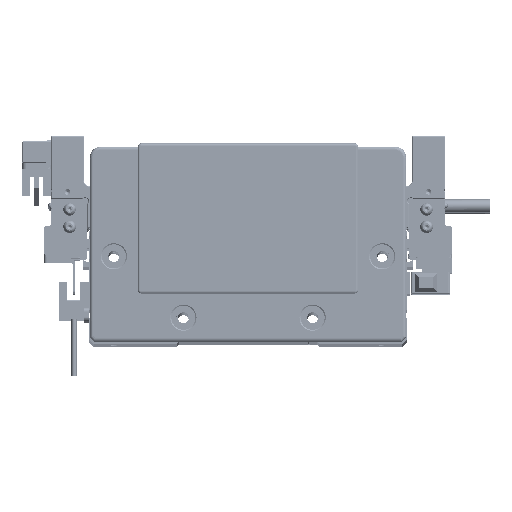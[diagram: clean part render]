
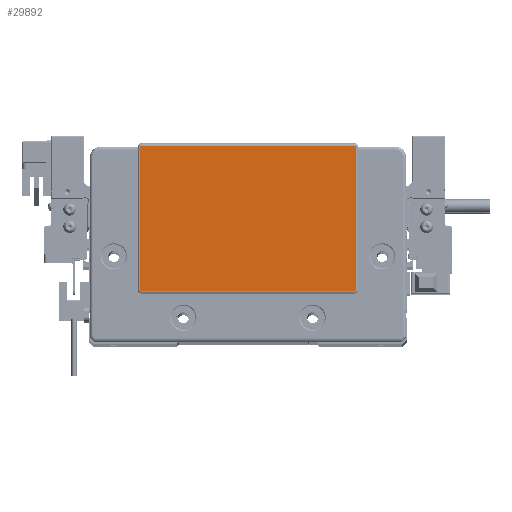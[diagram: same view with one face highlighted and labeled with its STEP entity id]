
A CAD part, top view. The second image highlights one B-rep face of the part: STEP entity #29892.
In plain terms, the highlighted planar face has unit normal (0, 0, 1) as drawn and (0, 0, -1) by its records, which use the part's own axes.
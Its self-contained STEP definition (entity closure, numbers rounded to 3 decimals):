
#2665 = CIRCLE ( 'NONE', #63061, 0.5 ) ;
#4687 = DIRECTION ( 'NONE',  ( 0., 0., -1. ) ) ;
#5616 = CARTESIAN_POINT ( 'NONE',  ( -48.75, -22.3, -2. ) ) ;
#6530 = DIRECTION ( 'NONE',  ( 0., 0., -1. ) ) ;
#9070 = EDGE_CURVE ( 'NONE', #18304, #29495, #2665, .T. ) ;
#14842 = DIRECTION ( 'NONE',  ( 0., 1., 0. ) ) ;
#15985 = LINE ( 'NONE', #38853, #72552 ) ;
#18304 = VERTEX_POINT ( 'NONE', #96316 ) ;
#20150 = DIRECTION ( 'NONE',  ( -1., 0., 0. ) ) ;
#21357 = DIRECTION ( 'NONE',  ( 1., 0., 0. ) ) ;
#25011 = AXIS2_PLACEMENT_3D ( 'NONE', #28091, #4687, #20150 ) ;
#27830 = CARTESIAN_POINT ( 'NONE',  ( 48.75, 44.3, -2. ) ) ;
#28091 = CARTESIAN_POINT ( 'NONE',  ( 48.75, 43.8, -2. ) ) ;
#28358 = ORIENTED_EDGE ( 'NONE', *, *, #87166, .T. ) ;
#28453 = DIRECTION ( 'NONE',  ( 0., 0., -1. ) ) ;
#29495 = VERTEX_POINT ( 'NONE', #74842 ) ;
#29496 = LINE ( 'NONE', #5616, #88831 ) ;
#29854 = EDGE_CURVE ( 'NONE', #84819, #52152, #41557, .T. ) ;
#29892 = ADVANCED_FACE ( 'NONE', ( #81229 ), #50379, .T. ) ;
#36497 = ORIENTED_EDGE ( 'NONE', *, *, #59762, .T. ) ;
#38262 = EDGE_CURVE ( 'NONE', #29495, #84819, #90020, .T. ) ;
#38853 = CARTESIAN_POINT ( 'NONE',  ( 49.25, -21.8, -2. ) ) ;
#41557 = CIRCLE ( 'NONE', #97241, 0.5 ) ;
#41965 = EDGE_LOOP ( 'NONE', ( #74357, #61669, #36497, #51199, #63845, #96980, #94978, #28358 ) ) ;
#43874 = DIRECTION ( 'NONE',  ( -1., 0., 0. ) ) ;
#45917 = EDGE_CURVE ( 'NONE', #60475, #92000, #52441, .T. ) ;
#46673 = CARTESIAN_POINT ( 'NONE',  ( -48.75, -21.8, -2. ) ) ;
#47800 = DIRECTION ( 'NONE',  ( 0., -1., 0. ) ) ;
#48790 = DIRECTION ( 'NONE',  ( -1., 0., 0. ) ) ;
#50379 = PLANE ( 'NONE',  #63868 ) ;
#50447 = DIRECTION ( 'NONE',  ( -1., 0., 0. ) ) ;
#51199 = ORIENTED_EDGE ( 'NONE', *, *, #9070, .T. ) ;
#52152 = VERTEX_POINT ( 'NONE', #96699 ) ;
#52441 = CIRCLE ( 'NONE', #57185, 0.5 ) ;
#52693 = CARTESIAN_POINT ( 'NONE',  ( -49.25, 43.8, -2. ) ) ;
#55256 = CARTESIAN_POINT ( 'NONE',  ( -49.25, 43.8, -2. ) ) ;
#57185 = AXIS2_PLACEMENT_3D ( 'NONE', #80123, #70689, #48790 ) ;
#57566 = CARTESIAN_POINT ( 'NONE',  ( 49.25, 43.8, -2. ) ) ;
#59762 = EDGE_CURVE ( 'NONE', #92000, #18304, #29496, .T. ) ;
#60475 = VERTEX_POINT ( 'NONE', #77619 ) ;
#61669 = ORIENTED_EDGE ( 'NONE', *, *, #45917, .T. ) ;
#62595 = DIRECTION ( 'NONE',  ( -1., 0., 0. ) ) ;
#63061 = AXIS2_PLACEMENT_3D ( 'NONE', #46673, #91993, #62595 ) ;
#63845 = ORIENTED_EDGE ( 'NONE', *, *, #38262, .T. ) ;
#63868 = AXIS2_PLACEMENT_3D ( 'NONE', #80735, #28453, #43874 ) ;
#67580 = VERTEX_POINT ( 'NONE', #57566 ) ;
#70689 = DIRECTION ( 'NONE',  ( 0., 0., -1. ) ) ;
#72552 = VECTOR ( 'NONE', #47800, 1000. ) ;
#73751 = DIRECTION ( 'NONE',  ( -1., 0., 0. ) ) ;
#74357 = ORIENTED_EDGE ( 'NONE', *, *, #87865, .T. ) ;
#74842 = CARTESIAN_POINT ( 'NONE',  ( -49.25, -21.8, -2. ) ) ;
#77460 = CIRCLE ( 'NONE', #25011, 0.5 ) ;
#77619 = CARTESIAN_POINT ( 'NONE',  ( 49.25, -21.8, -2. ) ) ;
#78864 = VECTOR ( 'NONE', #21357, 1000. ) ;
#79946 = CARTESIAN_POINT ( 'NONE',  ( 48.75, 44.3, -2. ) ) ;
#80123 = CARTESIAN_POINT ( 'NONE',  ( 48.75, -21.8, -2. ) ) ;
#80735 = CARTESIAN_POINT ( 'NONE',  ( 0., 0., -2. ) ) ;
#81229 = FACE_OUTER_BOUND ( 'NONE', #41965, .T. ) ;
#82216 = CARTESIAN_POINT ( 'NONE',  ( -48.75, 43.8, -2. ) ) ;
#84819 = VERTEX_POINT ( 'NONE', #55256 ) ;
#86214 = EDGE_CURVE ( 'NONE', #52152, #89900, #96533, .T. ) ;
#87166 = EDGE_CURVE ( 'NONE', #89900, #67580, #77460, .T. ) ;
#87865 = EDGE_CURVE ( 'NONE', #67580, #60475, #15985, .T. ) ;
#88831 = VECTOR ( 'NONE', #50447, 1000. ) ;
#89671 = CARTESIAN_POINT ( 'NONE',  ( 48.75, -22.3, -2. ) ) ;
#89900 = VERTEX_POINT ( 'NONE', #79946 ) ;
#90020 = LINE ( 'NONE', #52693, #91926 ) ;
#91926 = VECTOR ( 'NONE', #14842, 1000. ) ;
#91993 = DIRECTION ( 'NONE',  ( 0., 0., -1. ) ) ;
#92000 = VERTEX_POINT ( 'NONE', #89671 ) ;
#94978 = ORIENTED_EDGE ( 'NONE', *, *, #86214, .T. ) ;
#96316 = CARTESIAN_POINT ( 'NONE',  ( -48.75, -22.3, -2. ) ) ;
#96533 = LINE ( 'NONE', #27830, #78864 ) ;
#96699 = CARTESIAN_POINT ( 'NONE',  ( -48.75, 44.3, -2. ) ) ;
#96980 = ORIENTED_EDGE ( 'NONE', *, *, #29854, .T. ) ;
#97241 = AXIS2_PLACEMENT_3D ( 'NONE', #82216, #6530, #73751 ) ;
